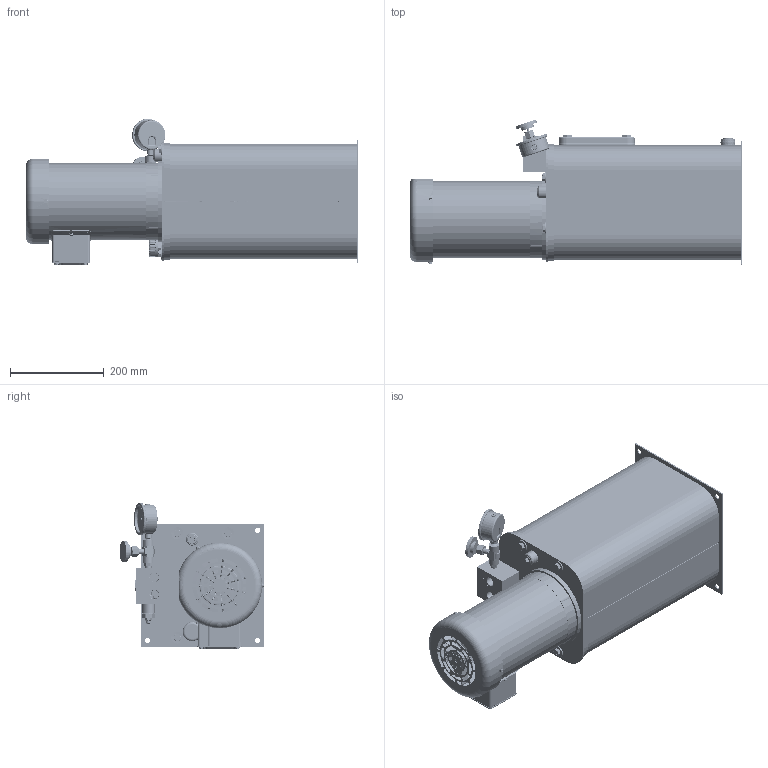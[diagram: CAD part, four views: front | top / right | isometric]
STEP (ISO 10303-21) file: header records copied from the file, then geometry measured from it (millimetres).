
FILE_DESCRIPTION (( 'STEP AP214' ), '1' );
FILE_NAME ('T5V-20-X-NN--059.STEP', '2021-08-25T16:24:01', ( '' ), ( '' ), 'SwSTEP 2.0', 'SolidWorks 2020', '' );
FILE_SCHEMA (( 'AUTOMOTIVE_DESIGN' ));
Length unit declared in the file: inch
Products named in the file (1): T5V-20-X-NN--059
Bounding box: 707.82 x 308.93 x 311.84 mm (x, y, z)
Surface area: 1980949.7 mm2 (no closed solid volume)
Topology: 0 solids, 99 shells, 7968 faces, 20051 edges, 12330 vertices
Faces by surface type: plane 2487, cylinder 2302, bspline 1326, cone 887, torus 672, sphere 294
Entity records: 457725 total; most frequent: CARTESIAN_POINT 180659, ORIENTED_EDGE 39616, DIRECTION 30651, EDGE_CURVE 19827, VERTEX_POINT 12313, AXIS2_PLACEMENT_3D 11815, EDGE_LOOP 8524, LENGTH_MEASURE_WITH_UNIT 8053
